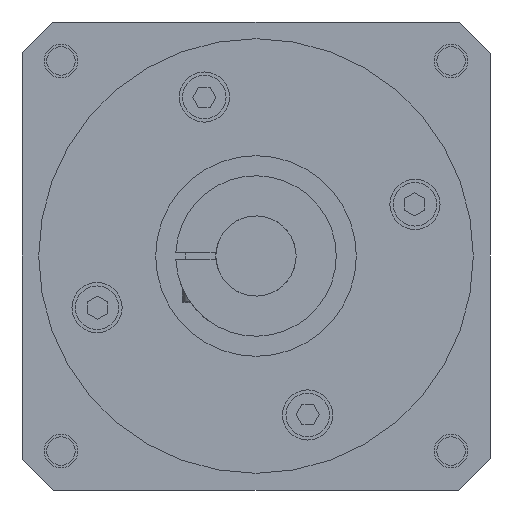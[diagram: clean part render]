
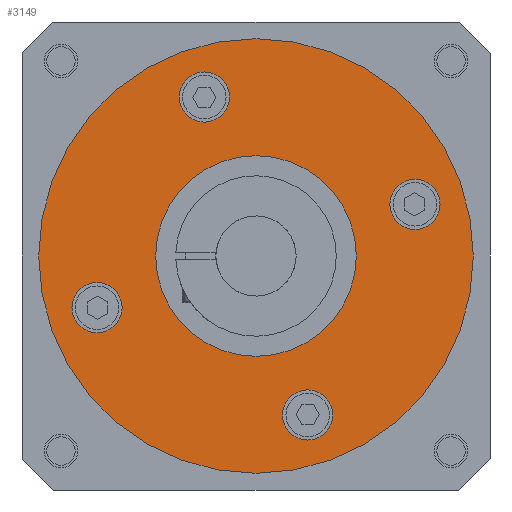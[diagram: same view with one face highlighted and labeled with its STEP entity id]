
A CAD part, left-side view. The second image highlights one B-rep face of the part: STEP entity #3149.
In plain terms, the highlighted planar face has unit normal (-1, 0, 0).
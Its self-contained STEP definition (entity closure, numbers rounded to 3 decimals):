
#163=CARTESIAN_POINT('',(10.4,0.,0.));
#164=DIRECTION('',(-1.,0.,0.));
#165=DIRECTION('',(0.,0.,1.));
#166=AXIS2_PLACEMENT_3D('',#163,#164,#165);
#172=CARTESIAN_POINT('',(10.4,0.,0.));
#173=DIRECTION('',(-1.,0.,0.));
#174=DIRECTION('',(0.,0.,-1.));
#175=AXIS2_PLACEMENT_3D('',#172,#173,#174);
#177=CARTESIAN_POINT('',(10.4,-47.553,15.451));
#178=DIRECTION('',(-1.,0.,0.));
#179=DIRECTION('',(0.,0.,-1.));
#180=AXIS2_PLACEMENT_3D('',#177,#178,#179);
#182=CARTESIAN_POINT('',(10.4,-47.553,15.451));
#183=DIRECTION('',(-1.,0.,0.));
#184=DIRECTION('',(0.,0.,1.));
#185=AXIS2_PLACEMENT_3D('',#182,#183,#184);
#187=CARTESIAN_POINT('',(10.4,-15.451,-47.553));
#188=DIRECTION('',(-1.,0.,0.));
#189=DIRECTION('',(0.,0.,-1.));
#190=AXIS2_PLACEMENT_3D('',#187,#188,#189);
#192=CARTESIAN_POINT('',(10.4,-15.451,-47.553));
#193=DIRECTION('',(-1.,0.,0.));
#194=DIRECTION('',(0.,0.,1.));
#195=AXIS2_PLACEMENT_3D('',#192,#193,#194);
#197=CARTESIAN_POINT('',(10.4,47.553,-15.451));
#198=DIRECTION('',(-1.,0.,0.));
#199=DIRECTION('',(0.,0.,-1.));
#200=AXIS2_PLACEMENT_3D('',#197,#198,#199);
#202=CARTESIAN_POINT('',(10.4,47.553,-15.451));
#203=DIRECTION('',(-1.,0.,0.));
#204=DIRECTION('',(0.,0.,1.));
#205=AXIS2_PLACEMENT_3D('',#202,#203,#204);
#207=CARTESIAN_POINT('',(10.4,15.451,47.553));
#208=DIRECTION('',(-1.,0.,0.));
#209=DIRECTION('',(0.,0.,-1.));
#210=AXIS2_PLACEMENT_3D('',#207,#208,#209);
#212=CARTESIAN_POINT('',(10.4,15.451,47.553));
#213=DIRECTION('',(-1.,0.,0.));
#214=DIRECTION('',(0.,0.,1.));
#215=AXIS2_PLACEMENT_3D('',#212,#213,#214);
#221=CARTESIAN_POINT('',(10.4,0.,0.));
#222=DIRECTION('',(-1.,0.,0.));
#223=DIRECTION('',(0.,-1.,0.));
#224=AXIS2_PLACEMENT_3D('',#221,#222,#223);
#230=CARTESIAN_POINT('',(10.4,0.,0.));
#231=DIRECTION('',(1.,0.,0.));
#232=DIRECTION('',(0.,-1.,0.));
#233=AXIS2_PLACEMENT_3D('',#230,#231,#232);
#2587=CARTESIAN_POINT('',(10.4,-65.,0.));
#2588=VERTEX_POINT('',#2587);
#2589=CARTESIAN_POINT('',(10.4,65.,0.));
#2590=VERTEX_POINT('',#2589);
#2675=CARTESIAN_POINT('',(10.4,-15.451,-40.053));
#2676=VERTEX_POINT('',#2675);
#2677=CARTESIAN_POINT('',(10.4,15.451,40.053));
#2678=VERTEX_POINT('',#2677);
#2811=CARTESIAN_POINT('',(10.4,0.,-30.));
#2812=VERTEX_POINT('',#2811);
#2813=CARTESIAN_POINT('',(10.4,0.,30.));
#2814=VERTEX_POINT('',#2813);
#2939=CARTESIAN_POINT('',(10.4,-47.553,7.951));
#2940=CARTESIAN_POINT('',(10.4,-47.553,22.951));
#2941=VERTEX_POINT('',#2939);
#2942=VERTEX_POINT('',#2940);
#2943=CARTESIAN_POINT('',(10.4,-15.451,-55.053));
#2944=VERTEX_POINT('',#2943);
#2945=CARTESIAN_POINT('',(10.4,47.553,-22.951));
#2946=CARTESIAN_POINT('',(10.4,47.553,-7.951));
#2947=VERTEX_POINT('',#2945);
#2948=VERTEX_POINT('',#2946);
#2949=CARTESIAN_POINT('',(10.4,15.451,55.053));
#2950=VERTEX_POINT('',#2949);
#3110=CARTESIAN_POINT('',(10.4,0.,0.));
#3111=DIRECTION('',(1.,0.,0.));
#3112=DIRECTION('',(0.,1.,0.));
#3113=AXIS2_PLACEMENT_3D('',#3110,#3111,#3112);
#3114=PLANE('',#3113);
#3116=ORIENTED_EDGE('',*,*,#3115,.F.);
#3118=ORIENTED_EDGE('',*,*,#3117,.T.);
#3119=EDGE_LOOP('',(#3116,#3118));
#3120=FACE_OUTER_BOUND('',#3119,.F.);
#3121=ORIENTED_EDGE('',*,*,#3089,.T.);
#3122=ORIENTED_EDGE('',*,*,#3105,.T.);
#3123=EDGE_LOOP('',(#3121,#3122));
#3124=FACE_BOUND('',#3123,.F.);
#3126=ORIENTED_EDGE('',*,*,#3125,.T.);
#3128=ORIENTED_EDGE('',*,*,#3127,.T.);
#3129=EDGE_LOOP('',(#3126,#3128));
#3130=FACE_BOUND('',#3129,.F.);
#3132=ORIENTED_EDGE('',*,*,#3131,.T.);
#3134=ORIENTED_EDGE('',*,*,#3133,.T.);
#3135=EDGE_LOOP('',(#3132,#3134));
#3136=FACE_BOUND('',#3135,.F.);
#3138=ORIENTED_EDGE('',*,*,#3137,.T.);
#3140=ORIENTED_EDGE('',*,*,#3139,.T.);
#3141=EDGE_LOOP('',(#3138,#3140));
#3142=FACE_BOUND('',#3141,.F.);
#3144=ORIENTED_EDGE('',*,*,#3143,.T.);
#3146=ORIENTED_EDGE('',*,*,#3145,.T.);
#3147=EDGE_LOOP('',(#3144,#3146));
#3148=FACE_BOUND('',#3147,.F.);
#167=CIRCLE('',#166,30.);
#176=CIRCLE('',#175,30.);
#181=CIRCLE('',#180,7.5);
#186=CIRCLE('',#185,7.5);
#191=CIRCLE('',#190,7.5);
#196=CIRCLE('',#195,7.5);
#201=CIRCLE('',#200,7.5);
#206=CIRCLE('',#205,7.5);
#211=CIRCLE('',#210,7.5);
#216=CIRCLE('',#215,7.5);
#225=CIRCLE('',#224,65.);
#234=CIRCLE('',#233,65.);
#3089=EDGE_CURVE('',#2814,#2812,#167,.T.);
#3105=EDGE_CURVE('',#2812,#2814,#176,.T.);
#3115=EDGE_CURVE('',#2588,#2590,#225,.T.);
#3117=EDGE_CURVE('',#2588,#2590,#234,.T.);
#3125=EDGE_CURVE('',#2941,#2942,#181,.T.);
#3127=EDGE_CURVE('',#2942,#2941,#186,.T.);
#3131=EDGE_CURVE('',#2944,#2676,#191,.T.);
#3133=EDGE_CURVE('',#2676,#2944,#196,.T.);
#3137=EDGE_CURVE('',#2947,#2948,#201,.T.);
#3139=EDGE_CURVE('',#2948,#2947,#206,.T.);
#3143=EDGE_CURVE('',#2678,#2950,#211,.T.);
#3145=EDGE_CURVE('',#2950,#2678,#216,.T.);
#3149=ADVANCED_FACE('',(#3120,#3124,#3130,#3136,#3142,#3148),#3114,.F.);
